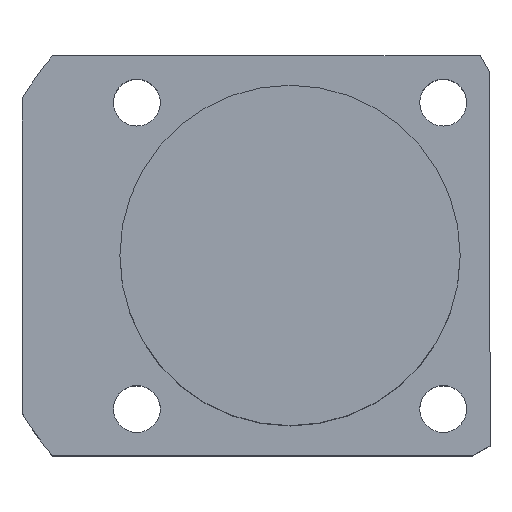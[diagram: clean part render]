
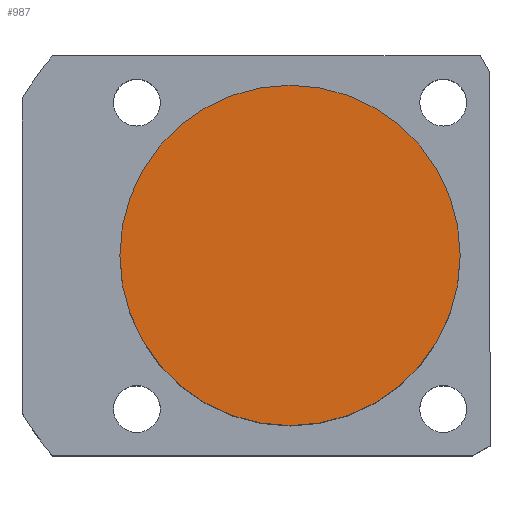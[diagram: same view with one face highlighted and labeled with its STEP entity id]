
A CAD part, top view. The second image highlights one B-rep face of the part: STEP entity #987.
In plain terms, the highlighted planar face has unit normal (0, 0, 1).
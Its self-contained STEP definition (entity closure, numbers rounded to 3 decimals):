
#89 = DIRECTION ( 'NONE',  ( 0., 0., 1. ) ) ;
#332 = DIRECTION ( 'NONE',  ( 1., 0., 0. ) ) ;
#334 = ORIENTED_EDGE ( 'NONE', *, *, #562, .T. ) ;
#370 = AXIS2_PLACEMENT_3D ( 'NONE', #1369, #845, #332 ) ;
#498 = PLANE ( 'NONE',  #1564 ) ;
#523 = EDGE_CURVE ( 'NONE', #1359, #1630, #1396, .T. ) ;
#562 = EDGE_CURVE ( 'NONE', #1630, #1359, #1091, .T. ) ;
#809 = CARTESIAN_POINT ( 'NONE',  ( -20., 0., 36.5 ) ) ;
#845 = DIRECTION ( 'NONE',  ( 0., 0., 1. ) ) ;
#903 = ORIENTED_EDGE ( 'NONE', *, *, #523, .T. ) ;
#987 = ADVANCED_FACE ( 'NONE', ( #1532 ), #498, .T. ) ;
#1002 = AXIS2_PLACEMENT_3D ( 'NONE', #1563, #89, #1813 ) ;
#1091 = CIRCLE ( 'NONE', #370, 20. ) ;
#1106 = DIRECTION ( 'NONE',  ( 0., 0., 1. ) ) ;
#1232 = EDGE_LOOP ( 'NONE', ( #334, #903 ) ) ;
#1359 = VERTEX_POINT ( 'NONE', #1434 ) ;
#1369 = CARTESIAN_POINT ( 'NONE',  ( 0., 0., 36.5 ) ) ;
#1393 = DIRECTION ( 'NONE',  ( 1., 0., 0. ) ) ;
#1396 = CIRCLE ( 'NONE', #1002, 20. ) ;
#1434 = CARTESIAN_POINT ( 'NONE',  ( 20., 0., 36.5 ) ) ;
#1532 = FACE_OUTER_BOUND ( 'NONE', #1232, .T. ) ;
#1563 = CARTESIAN_POINT ( 'NONE',  ( 0., 0., 36.5 ) ) ;
#1564 = AXIS2_PLACEMENT_3D ( 'NONE', #1828, #1106, #1393 ) ;
#1630 = VERTEX_POINT ( 'NONE', #809 ) ;
#1813 = DIRECTION ( 'NONE',  ( 1., 0., 0. ) ) ;
#1828 = CARTESIAN_POINT ( 'NONE',  ( 0., 0., 36.5 ) ) ;
